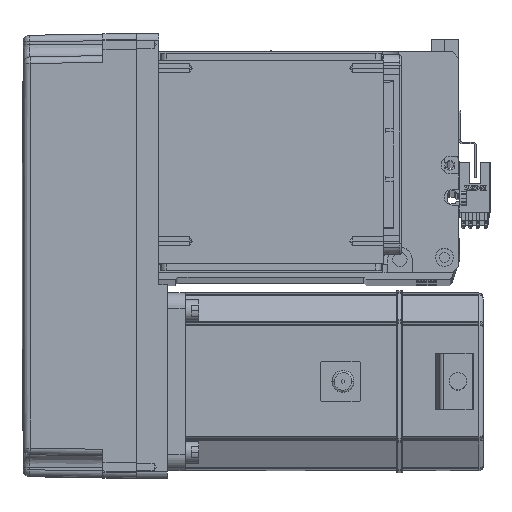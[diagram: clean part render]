
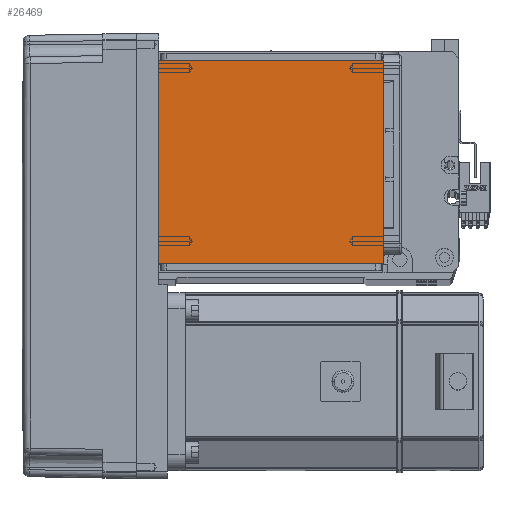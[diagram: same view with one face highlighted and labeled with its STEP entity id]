
A CAD part, top view. The second image highlights one B-rep face of the part: STEP entity #26469.
In plain terms, the highlighted planar face has unit normal (0, 0, 1).
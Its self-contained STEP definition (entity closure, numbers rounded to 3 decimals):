
#399 = CARTESIAN_POINT ( 'NONE',  ( 50.5, 20., 115. ) ) ;
#5177 = CARTESIAN_POINT ( 'NONE',  ( -70.004, 20., 115. ) ) ;
#6433 = EDGE_CURVE ( 'NONE', #27595, #37579, #29232, .T. ) ;
#7621 = CARTESIAN_POINT ( 'NONE',  ( 50.5, 122., 115. ) ) ;
#8164 = ORIENTED_EDGE ( 'NONE', *, *, #9974, .F. ) ;
#9205 = VECTOR ( 'NONE', #28158, 1000. ) ;
#9974 = EDGE_CURVE ( 'NONE', #27595, #35849, #21572, .T. ) ;
#10559 = VERTEX_POINT ( 'NONE', #49101 ) ;
#11744 = ORIENTED_EDGE ( 'NONE', *, *, #6433, .T. ) ;
#12314 = DIRECTION ( 'NONE',  ( 0., 1., 0. ) ) ;
#13363 = EDGE_CURVE ( 'NONE', #10559, #37579, #35154, .T. ) ;
#16199 = VECTOR ( 'NONE', #49965, 1000. ) ;
#19063 = AXIS2_PLACEMENT_3D ( 'NONE', #37746, #37952, #19805 ) ;
#19805 = DIRECTION ( 'NONE',  ( 1., 0., 0. ) ) ;
#20225 = EDGE_CURVE ( 'NONE', #10559, #35849, #24459, .T. ) ;
#21572 = LINE ( 'NONE', #5177, #9205 ) ;
#22273 = VECTOR ( 'NONE', #26635, 1000. ) ;
#22645 = CARTESIAN_POINT ( 'NONE',  ( 50.5, 111.5, 115. ) ) ;
#24459 = LINE ( 'NONE', #54220, #22273 ) ;
#26469 = ADVANCED_FACE ( 'NONE', ( #56769 ), #57146, .T. ) ;
#26635 = DIRECTION ( 'NONE',  ( 0., -1., 0. ) ) ;
#27595 = VERTEX_POINT ( 'NONE', #399 ) ;
#28158 = DIRECTION ( 'NONE',  ( -1., 0., 0. ) ) ;
#29232 = LINE ( 'NONE', #7621, #38009 ) ;
#34470 = CARTESIAN_POINT ( 'NONE',  ( -50.5, 20., 115. ) ) ;
#35154 = LINE ( 'NONE', #53875, #16199 ) ;
#35849 = VERTEX_POINT ( 'NONE', #34470 ) ;
#36328 = ORIENTED_EDGE ( 'NONE', *, *, #20225, .T. ) ;
#37579 = VERTEX_POINT ( 'NONE', #22645 ) ;
#37746 = CARTESIAN_POINT ( 'NONE',  ( 0., 0., 115. ) ) ;
#37952 = DIRECTION ( 'NONE',  ( 0., 0., 1. ) ) ;
#38009 = VECTOR ( 'NONE', #12314, 1000. ) ;
#38503 = EDGE_LOOP ( 'NONE', ( #57157, #36328, #8164, #11744 ) ) ;
#49101 = CARTESIAN_POINT ( 'NONE',  ( -50.5, 111.5, 115. ) ) ;
#49965 = DIRECTION ( 'NONE',  ( 1., 0., 0. ) ) ;
#53875 = CARTESIAN_POINT ( 'NONE',  ( -70.004, 111.5, 115. ) ) ;
#54220 = CARTESIAN_POINT ( 'NONE',  ( -50.5, 122., 115. ) ) ;
#56769 = FACE_OUTER_BOUND ( 'NONE', #38503, .T. ) ;
#57146 = PLANE ( 'NONE',  #19063 ) ;
#57157 = ORIENTED_EDGE ( 'NONE', *, *, #13363, .F. ) ;
